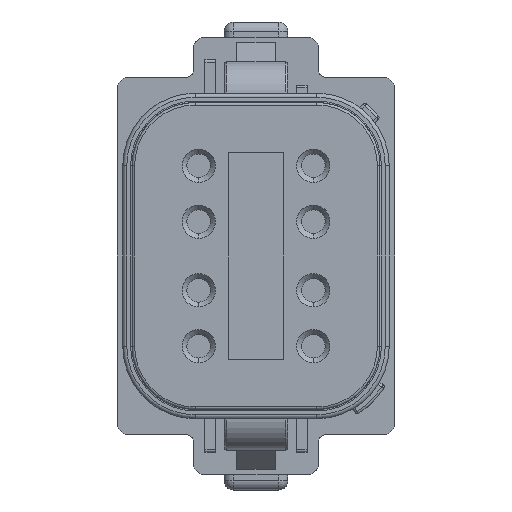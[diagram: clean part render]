
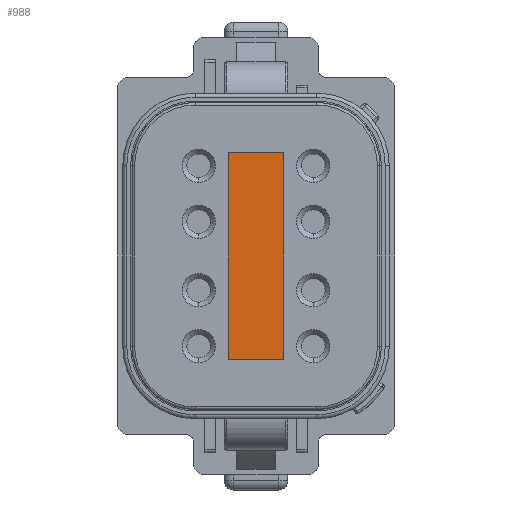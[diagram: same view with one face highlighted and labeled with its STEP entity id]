
A CAD part, front view. The second image highlights one B-rep face of the part: STEP entity #988.
In plain terms, the highlighted planar face has unit normal (0, -1, 0).
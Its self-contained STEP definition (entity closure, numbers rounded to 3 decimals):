
#988=ADVANCED_FACE('',(#1644),#1178,.T.);
#1178=PLANE('',#9143);
#1644=FACE_OUTER_BOUND('',#2148,.T.);
#2148=EDGE_LOOP('',(#4962,#4963,#4964,#4965));
#4962=ORIENTED_EDGE('',*,*,#6891,.T.);
#4963=ORIENTED_EDGE('',*,*,#6889,.T.);
#4964=ORIENTED_EDGE('',*,*,#6887,.T.);
#4965=ORIENTED_EDGE('',*,*,#6885,.T.);
#5693=VERTEX_POINT('',#18189);
#5694=VERTEX_POINT('',#18191);
#5695=VERTEX_POINT('',#18195);
#5696=VERTEX_POINT('',#18199);
#6885=EDGE_CURVE('',#5694,#5693,#7573,.T.);
#6887=EDGE_CURVE('',#5695,#5694,#7575,.T.);
#6889=EDGE_CURVE('',#5696,#5695,#7577,.T.);
#6891=EDGE_CURVE('',#5693,#5696,#7579,.T.);
#7573=LINE('',#18190,#8261);
#7575=LINE('',#18194,#8263);
#7577=LINE('',#18198,#8265);
#7579=LINE('',#18202,#8267);
#8261=VECTOR('',#11567,1.);
#8263=VECTOR('',#11571,1.);
#8265=VECTOR('',#11575,1.);
#8267=VECTOR('',#11579,1.);
#9143=AXIS2_PLACEMENT_3D('',#18204,#11582,#11583);
#11567=DIRECTION('',(0.,0.,1.));
#11571=DIRECTION('',(1.,0.,0.));
#11575=DIRECTION('',(0.,0.,-1.));
#11579=DIRECTION('',(-1.,0.,0.));
#11582=DIRECTION('',(0.,-1.,0.));
#11583=DIRECTION('',(1.,0.,0.));
#18189=CARTESIAN_POINT('',(2.21,-91.276,8.192));
#18190=CARTESIAN_POINT('',(2.21,-91.276,-8.192));
#18191=CARTESIAN_POINT('',(2.21,-91.276,-8.192));
#18194=CARTESIAN_POINT('',(-2.21,-91.276,-8.191));
#18195=CARTESIAN_POINT('',(-2.21,-91.276,-8.191));
#18198=CARTESIAN_POINT('',(-2.21,-91.276,8.192));
#18199=CARTESIAN_POINT('',(-2.21,-91.276,8.192));
#18202=CARTESIAN_POINT('',(2.21,-91.276,8.192));
#18204=CARTESIAN_POINT('',(0.,-91.276,0.));
